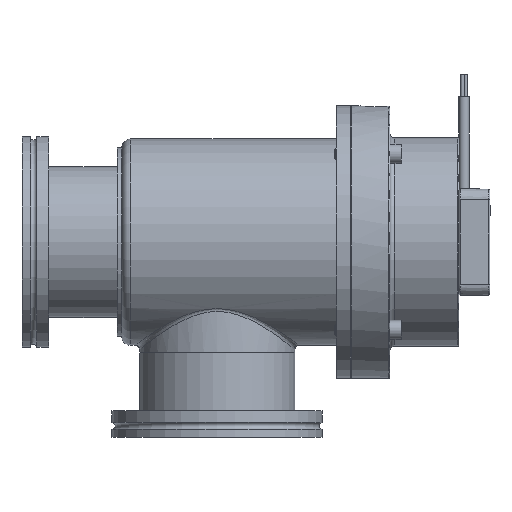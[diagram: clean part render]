
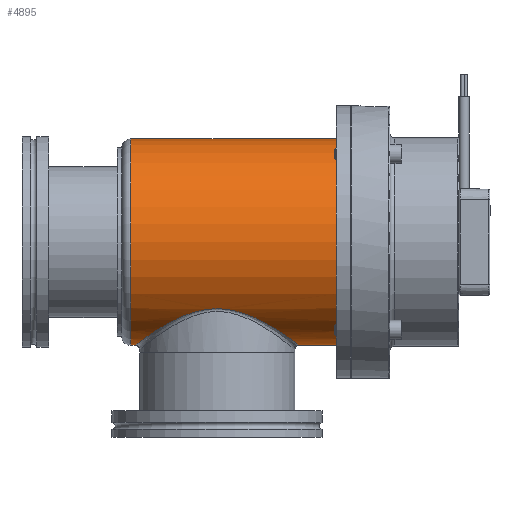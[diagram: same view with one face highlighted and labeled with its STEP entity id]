
A CAD part, top view. The second image highlights one B-rep face of the part: STEP entity #4895.
In plain terms, the highlighted cylindrical face has radius 46.5 mm (diameter 93 mm), a full revolution.
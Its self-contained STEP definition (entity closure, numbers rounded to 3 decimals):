
#2051=B_SPLINE_CURVE_WITH_KNOTS('',3,(#16479,#16480,#16481,#16482,#16483,
#16484,#16485,#16486,#16487,#16488,#16489,#16490,#16491,#16492,#16493,#16494,
#16495,#16496,#16497,#16498,#16499,#16500,#16501,#16502,#16503,#16504,#16505,
#16506,#16507,#16508,#16509,#16510,#16511,#16512,#16513,#16514,#16515,#16516,
#16517,#16518,#16519,#16520,#16521,#16522,#16523,#16524),.UNSPECIFIED.,.T.,
 .F.,(2,2,2,2,2,2,2,2,2,2,2,2,2,2,2,2,2,2,2,2,2,2,2,2,2),(-0.063,0.,0.063,
0.094,0.125,0.156,0.188,0.219,0.25,0.313,0.375,0.438,
0.5,0.531,0.563,0.625,0.656,0.688,0.719,0.75,0.813,0.875,0.938,
1.,1.063),.UNSPECIFIED.);
#3995=CYLINDRICAL_SURFACE('',#11186,46.5);
#4337=FACE_BOUND('',#6118,.T.);
#4338=FACE_BOUND('',#6119,.T.);
#4339=FACE_BOUND('',#6120,.T.);
#4895=ADVANCED_FACE('',(#4337,#4338,#4339),#3995,.T.);
#6118=EDGE_LOOP('',(#8128));
#6119=EDGE_LOOP('',(#8129));
#6120=EDGE_LOOP('',(#8130));
#8128=ORIENTED_EDGE('',*,*,#9999,.T.);
#8129=ORIENTED_EDGE('',*,*,#10000,.T.);
#8130=ORIENTED_EDGE('',*,*,#10001,.T.);
#8983=VERTEX_POINT('',#16478);
#8984=VERTEX_POINT('',#16525);
#8985=VERTEX_POINT('',#16527);
#9999=EDGE_CURVE('',#8983,#8983,#10400,.T.);
#10000=EDGE_CURVE('',#8984,#8984,#2051,.T.);
#10001=EDGE_CURVE('',#8985,#8985,#10401,.T.);
#10400=CIRCLE('',#11184,46.5);
#10401=CIRCLE('',#11185,46.5);
#11184=AXIS2_PLACEMENT_3D('',#16477,#13333,#13334);
#11185=AXIS2_PLACEMENT_3D('',#16526,#13335,#13336);
#11186=AXIS2_PLACEMENT_3D('',#16528,#13337,#13338);
#13333=DIRECTION('',(1.,0.,0.));
#13334=DIRECTION('',(0.,0.,-1.));
#13335=DIRECTION('',(-1.,0.,0.));
#13336=DIRECTION('',(0.,0.,1.));
#13337=DIRECTION('',(-1.,0.,0.));
#13338=DIRECTION('',(0.,0.,1.));
#16477=CARTESIAN_POINT('',(4.,0.,0.));
#16478=CARTESIAN_POINT('',(4.,0.,-46.5));
#16479=CARTESIAN_POINT('',(37.968,-30.064,35.474));
#16480=CARTESIAN_POINT('',(48.032,-30.064,35.474));
#16481=CARTESIAN_POINT('',(52.901,-31.3,34.474));
#16482=CARTESIAN_POINT('',(59.385,-33.868,31.885));
#16483=CARTESIAN_POINT('',(61.453,-34.849,30.826));
#16484=CARTESIAN_POINT('',(65.29,-36.853,28.4));
#16485=CARTESIAN_POINT('',(67.071,-37.881,27.031));
#16486=CARTESIAN_POINT('',(70.388,-39.898,23.955));
#16487=CARTESIAN_POINT('',(71.934,-40.896,22.227));
#16488=CARTESIAN_POINT('',(74.659,-42.712,18.5));
#16489=CARTESIAN_POINT('',(75.851,-43.536,16.494));
#16490=CARTESIAN_POINT('',(77.853,-44.945,12.143));
#16491=CARTESIAN_POINT('',(78.643,-45.514,9.827));
#16492=CARTESIAN_POINT('',(79.712,-46.288,5.049));
#16493=CARTESIAN_POINT('',(79.996,-46.497,2.53));
#16494=CARTESIAN_POINT('',(80.008,-46.506,-4.901));
#16495=CARTESIAN_POINT('',(78.892,-45.677,-9.844));
#16496=CARTESIAN_POINT('',(74.912,-42.875,-18.574));
#16497=CARTESIAN_POINT('',(72.101,-40.942,-22.354));
#16498=CARTESIAN_POINT('',(65.451,-36.893,-28.545));
#16499=CARTESIAN_POINT('',(61.575,-34.738,-31.007));
#16500=CARTESIAN_POINT('',(52.929,-31.308,-34.467));
#16501=CARTESIAN_POINT('',(48.026,-30.066,-35.472));
#16502=CARTESIAN_POINT('',(40.507,-30.063,-35.475));
#16503=CARTESIAN_POINT('',(38.066,-30.352,-35.235));
#16504=CARTESIAN_POINT('',(33.293,-31.392,-34.311));
#16505=CARTESIAN_POINT('',(30.979,-32.142,-33.625));
#16506=CARTESIAN_POINT('',(24.474,-34.713,-31.035));
#16507=CARTESIAN_POINT('',(20.607,-36.861,-28.585));
#16508=CARTESIAN_POINT('',(15.628,-39.888,-23.971));
#16509=CARTESIAN_POINT('',(14.08,-40.887,-22.244));
#16510=CARTESIAN_POINT('',(11.351,-42.705,-18.516));
#16511=CARTESIAN_POINT('',(10.157,-43.531,-16.509));
#16512=CARTESIAN_POINT('',(8.153,-44.941,-12.158));
#16513=CARTESIAN_POINT('',(7.361,-45.511,-9.84));
#16514=CARTESIAN_POINT('',(6.29,-46.287,-5.06));
#16515=CARTESIAN_POINT('',(6.004,-46.497,-2.539));
#16516=CARTESIAN_POINT('',(5.991,-46.506,4.897));
#16517=CARTESIAN_POINT('',(7.107,-45.677,9.843));
#16518=CARTESIAN_POINT('',(11.089,-42.874,18.577));
#16519=CARTESIAN_POINT('',(13.903,-40.939,22.359));
#16520=CARTESIAN_POINT('',(20.559,-36.887,28.553));
#16521=CARTESIAN_POINT('',(24.438,-34.732,31.014));
#16522=CARTESIAN_POINT('',(33.092,-31.302,34.473));
#16523=CARTESIAN_POINT('',(37.968,-30.064,35.474));
#16524=CARTESIAN_POINT('',(48.032,-30.064,35.474));
#16525=CARTESIAN_POINT('',(43.,-30.064,35.474));
#16526=CARTESIAN_POINT('',(98.6,0.,0.));
#16527=CARTESIAN_POINT('',(98.6,0.,46.5));
#16528=CARTESIAN_POINT('',(0.,0.,0.));
